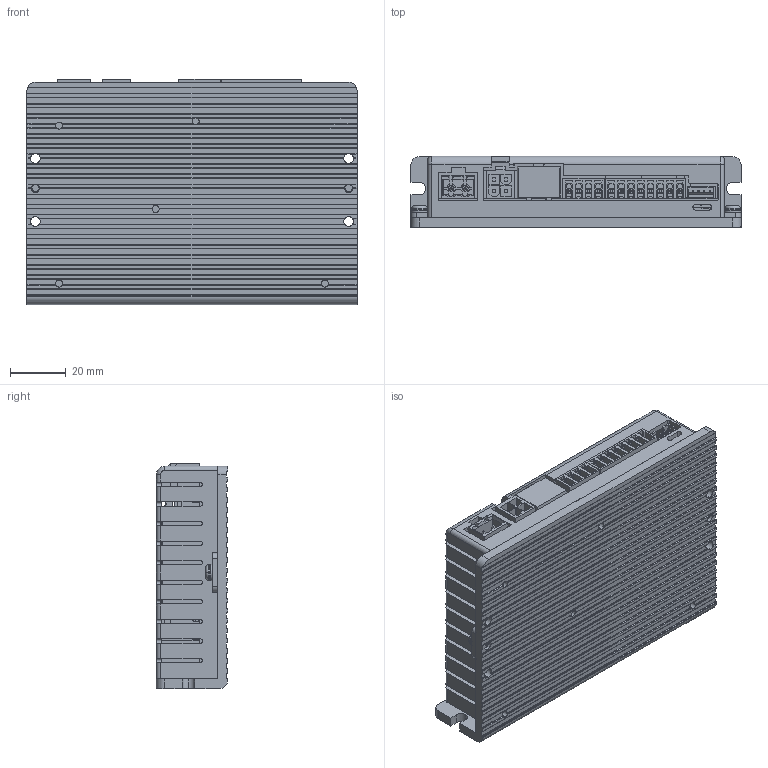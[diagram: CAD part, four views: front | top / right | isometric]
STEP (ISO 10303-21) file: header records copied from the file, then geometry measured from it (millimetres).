
FILE_DESCRIPTION (( 'STEP AP214' ), '1' );
FILE_NAME ('CS2RS-D507.STEP', '2019-08-09T01:50:19', ( 'hwtest' ), ( 'Microsoft' ), 'SwSTEP 2.0', 'SolidWorks 2014', '' );
FILE_SCHEMA (( 'AUTOMOTIVE_DESIGN' ));
Length unit declared in the file: millimetre
Products named in the file (1): CS2RS-D507
Bounding box: 118 x 25.5 x 80.5 mm (x, y, z)
Volume: 91891.2 mm3; surface area: 84003 mm2
Topology: 12 solids, 12 shells, 2530 faces, 6997 edges, 4570 vertices
Faces by surface type: plane 2064, cylinder 434, cone 12, bspline 10, torus 10
Entity records: 120869 total; most frequent: CARTESIAN_POINT 28578, ORIENTED_EDGE 13994, DIRECTION 12279, EDGE_CURVE 6997, LINE 5873, VECTOR 5873, VERTEX_POINT 4570, AXIS2_PLACEMENT_3D 3203
